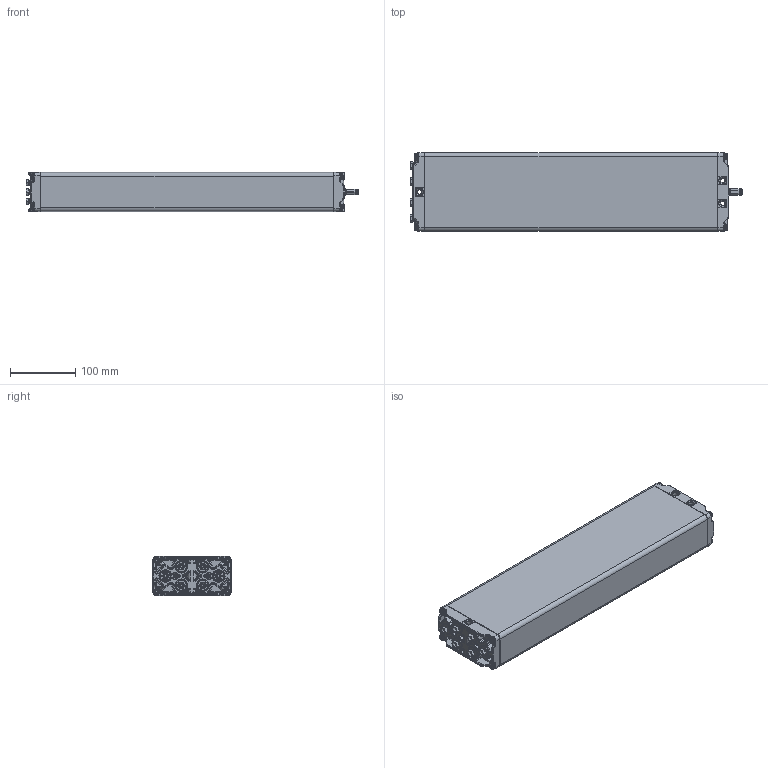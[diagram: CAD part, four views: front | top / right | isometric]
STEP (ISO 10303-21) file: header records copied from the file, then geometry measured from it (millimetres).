
FILE_DESCRIPTION(/* description */ ('Unknown'),/* implementation_level */ '2;1');
FILE_NAME(/* name */ '102.30043_00',/* time_stamp */ '2024-03-26T10:40:43+01:00',/* author */ ('Unknown'),/* organization */ ('Unknown'),/* preprocessor_version */ 'ST-DEVELOPER v18.104',/* originating_system */ 'Solid Edge',/* authorisation */ 'Unknown');
FILE_SCHEMA (('AUTOMOTIVE_DESIGN {1 0 10303 214 3 1 1}'));
Products named in the file (24): 102.30043; 115.00140; 126.00006; 122.00040; 110.00173_oa_0; 125.00373; 126.00005; 119.00043; 115.00033_oa_1; 125.00045; 115.00008_oa_2; 142.00021; 125.00021; 142.00013; 115.00033_oa_3; 115.00008_oa_4; 115.00033_oa_5; 115.00008_oa_6; 115.00033_oa_7; 115.00008_oa_8; 115.00033_oa_9; 115.00008_oa_10; 115.00033_oa_11; 115.00008_oa_12
Assembly tree (45 placements, depth 3):
  102.30043
    115.00140
      126.00006
      122.00040
    110.00173_oa_0
      125.00373
    126.00005
    119.00043
    115.00033_oa_1
      125.00045
      115.00008_oa_2
      142.00021
      125.00021
    142.00013  x8
    115.00033_oa_3
      125.00045
      115.00008_oa_4
      142.00021
      125.00021
    115.00033_oa_5
      125.00045
      115.00008_oa_6
      142.00021
      125.00021
    115.00033_oa_7
      125.00045
      115.00008_oa_8
      142.00021
      125.00021
    115.00033_oa_9
      125.00045
      115.00008_oa_10
      142.00021
      125.00021
    115.00033_oa_11
      125.00045
      115.00008_oa_12
      142.00021
      125.00021
Bounding box: 509.47 x 120 x 60.3 mm (x, y, z)
Volume: 656892.9 mm3; surface area: 438695.6 mm2
Topology: 31 solids, 31 shells, 2612 faces, 6292 edges, 3635 vertices
Faces by surface type: plane 710, bspline 704, cylinder 587, cone 375, torus 176, sphere 60
Full cylindrical faces by diameter (mm): 3.5 x6, 4.1 x6, 4.2 x6, 5 x8, 6.917 x12, 8 x13, 8.9 x1, 9.8 x8, 10 x3, 10.4 x1, 14 x1, 14.4 x6, 17.25 x6, 17.9 x12, 18 x1, 19 x1
Entity records: 105144 total; most frequent: CARTESIAN_POINT 61457, ORIENTED_EDGE 8334, DIRECTION 6688, EDGE_CURVE 4167, AXIS2_PLACEMENT_3D 2690, VERTEX_POINT 2559, FACE_BOUND 1998, EDGE_LOOP 1997
